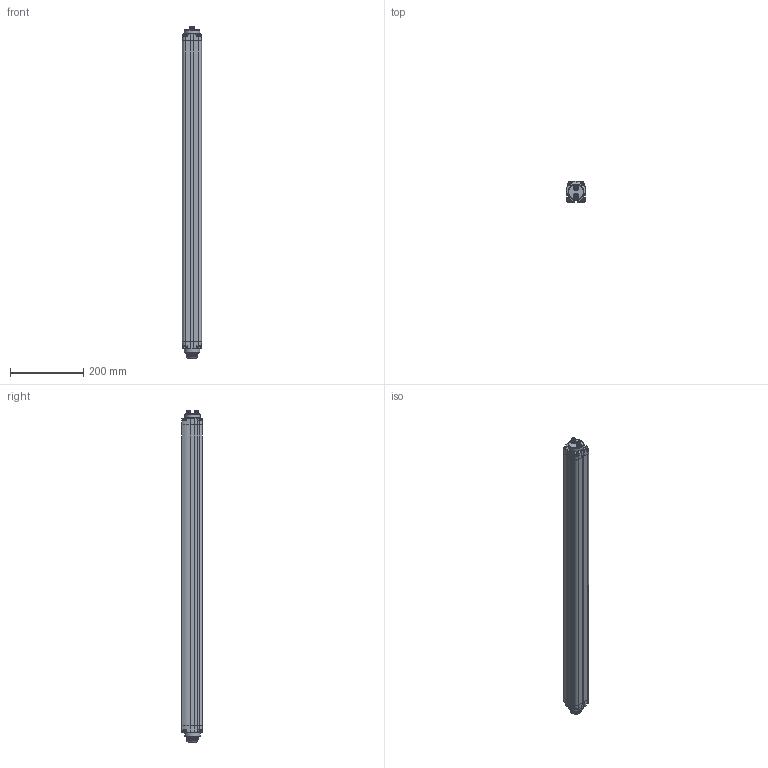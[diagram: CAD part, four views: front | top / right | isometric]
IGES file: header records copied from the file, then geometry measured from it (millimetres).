
Global section: file name: C:\Documents and Settings\LRossetti\Desktop\SG Body DSD\DSD-0240.igs; native system: NX V7.5; preprocessor: SIEMENS PLM Software NX 7.5; date: 20110524.132424; units: millimetre
Bounding box: 52 x 56.93 x 906.4 mm (x, y, z)
Surface area: 228941.6 mm2 (no closed solid volume)
Topology: 0 solids, 0 shells, 1055 faces, 6513 edges, 6383 vertices
Faces by surface type: bspline 1055
